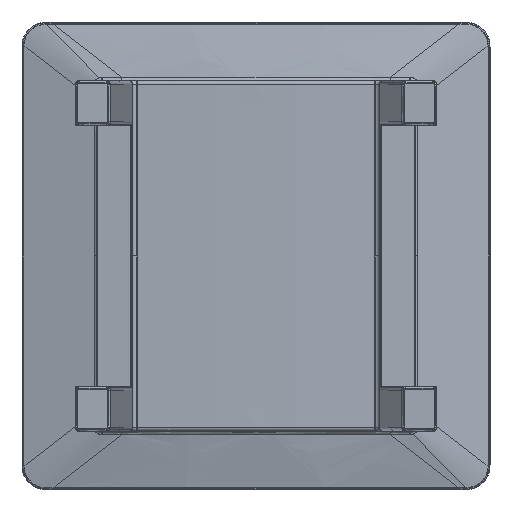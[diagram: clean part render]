
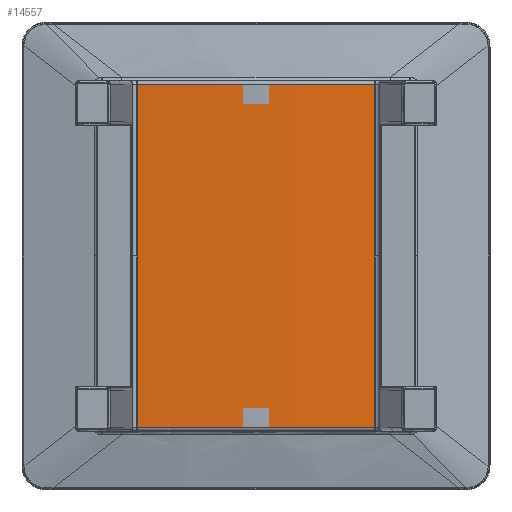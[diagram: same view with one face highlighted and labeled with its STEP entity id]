
A CAD part, front view. The second image highlights one B-rep face of the part: STEP entity #14557.
In plain terms, the highlighted cylindrical face has radius 2027 mm (diameter 4054 mm), a partial arc.
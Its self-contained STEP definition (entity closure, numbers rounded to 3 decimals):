
#19 = ORIENTED_EDGE ( 'NONE', *, *, #338, .T. ) ;
#338 = EDGE_CURVE ( 'NONE', #14341, #7845, #6977, .T. ) ;
#1127 = DIRECTION ( 'NONE',  ( 0., 0., -1. ) ) ;
#1753 = VECTOR ( 'NONE', #1127, 1000. ) ;
#1788 = DIRECTION ( 'NONE',  ( 0., 0., -1. ) ) ;
#2595 = VERTEX_POINT ( 'NONE', #4990 ) ;
#3177 = FACE_OUTER_BOUND ( 'NONE', #17075, .T. ) ;
#3759 = DIRECTION ( 'NONE',  ( 0., 0., 1. ) ) ;
#4990 = CARTESIAN_POINT ( 'NONE',  ( -101.516, 420.544, 147. ) ) ;
#5034 = LINE ( 'NONE', #10168, #1753 ) ;
#5584 = DIRECTION ( 'NONE',  ( 0., 0., -1. ) ) ;
#6169 = ORIENTED_EDGE ( 'NONE', *, *, #7786, .F. ) ;
#6203 = CARTESIAN_POINT ( 'NONE',  ( 101.516, 420.544, 147. ) ) ;
#6738 = CIRCLE ( 'NONE', #9782, 2027. ) ;
#6897 = CARTESIAN_POINT ( 'NONE',  ( 0., 2445., 147. ) ) ;
#6977 = CIRCLE ( 'NONE', #11134, 2027. ) ;
#7095 = DIRECTION ( 'NONE',  ( -1., 0., 0. ) ) ;
#7709 = VERTEX_POINT ( 'NONE', #6203 ) ;
#7786 = EDGE_CURVE ( 'NONE', #7709, #7845, #12092, .T. ) ;
#7845 = VERTEX_POINT ( 'NONE', #10149 ) ;
#9288 = CYLINDRICAL_SURFACE ( 'NONE', #16438, 2027. ) ;
#9375 = CARTESIAN_POINT ( 'NONE',  ( -101.516, 420.544, -147. ) ) ;
#9782 = AXIS2_PLACEMENT_3D ( 'NONE', #6897, #5584, #12724 ) ;
#10149 = CARTESIAN_POINT ( 'NONE',  ( 101.516, 420.544, -147. ) ) ;
#10168 = CARTESIAN_POINT ( 'NONE',  ( -101.516, 420.544, 971.793 ) ) ;
#10272 = CARTESIAN_POINT ( 'NONE',  ( 0., 2445., -147. ) ) ;
#10859 = DIRECTION ( 'NONE',  ( 0., 0., -1. ) ) ;
#11134 = AXIS2_PLACEMENT_3D ( 'NONE', #10272, #3759, #11770 ) ;
#11770 = DIRECTION ( 'NONE',  ( -1., 0., 0. ) ) ;
#12003 = CARTESIAN_POINT ( 'NONE',  ( 101.516, 420.544, 971.793 ) ) ;
#12092 = LINE ( 'NONE', #12003, #15340 ) ;
#12368 = ORIENTED_EDGE ( 'NONE', *, *, #14966, .T. ) ;
#12724 = DIRECTION ( 'NONE',  ( 1., 0., 0. ) ) ;
#13695 = CARTESIAN_POINT ( 'NONE',  ( 0., 2445., 971.793 ) ) ;
#14341 = VERTEX_POINT ( 'NONE', #9375 ) ;
#14557 = ADVANCED_FACE ( 'NONE', ( #3177 ), #9288, .T. ) ;
#14966 = EDGE_CURVE ( 'NONE', #7709, #2595, #6738, .T. ) ;
#15340 = VECTOR ( 'NONE', #10859, 1000. ) ;
#15374 = ORIENTED_EDGE ( 'NONE', *, *, #16245, .T. ) ;
#16245 = EDGE_CURVE ( 'NONE', #2595, #14341, #5034, .T. ) ;
#16438 = AXIS2_PLACEMENT_3D ( 'NONE', #13695, #1788, #7095 ) ;
#17075 = EDGE_LOOP ( 'NONE', ( #15374, #19, #6169, #12368 ) ) ;
